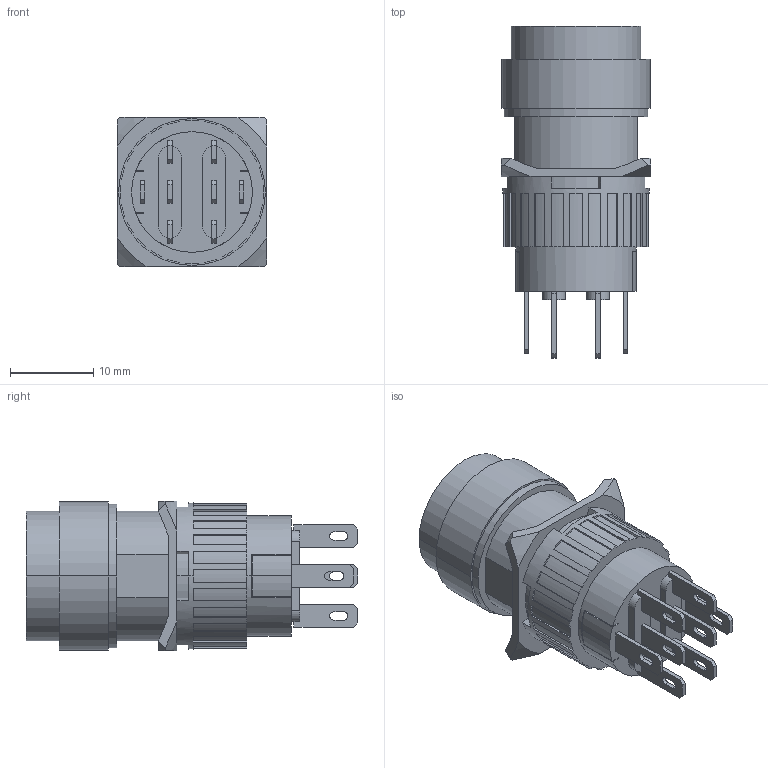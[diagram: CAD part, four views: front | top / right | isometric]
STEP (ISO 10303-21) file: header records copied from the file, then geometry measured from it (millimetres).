
FILE_DESCRIPTION (( 'STEP AP203' ), '1' );
FILE_NAME ('P16-BR.STEP', '2018-02-15T15:21:48', ( '' ), ( '' ), 'SwSTEP 2.0', 'SolidWorks 2012', '' );
FILE_SCHEMA (( 'CONFIG_CONTROL_DESIGN' ));
Length unit declared in the file: millimetre
Products named in the file (1): P16-BR
Bounding box: 18 x 39.9 x 18 mm (x, y, z)
Volume: 6875.4 mm3; surface area: 3510.5 mm2
Topology: 1 solids, 1 shells, 290 faces, 817 edges, 542 vertices
Faces by surface type: plane 199, cylinder 79, cone 12
Entity records: 9524 total; most frequent: CARTESIAN_POINT 1722, ORIENTED_EDGE 1634, DIRECTION 1609, EDGE_CURVE 817, LINE 559, VECTOR 559, VERTEX_POINT 542, AXIS2_PLACEMENT_3D 525
